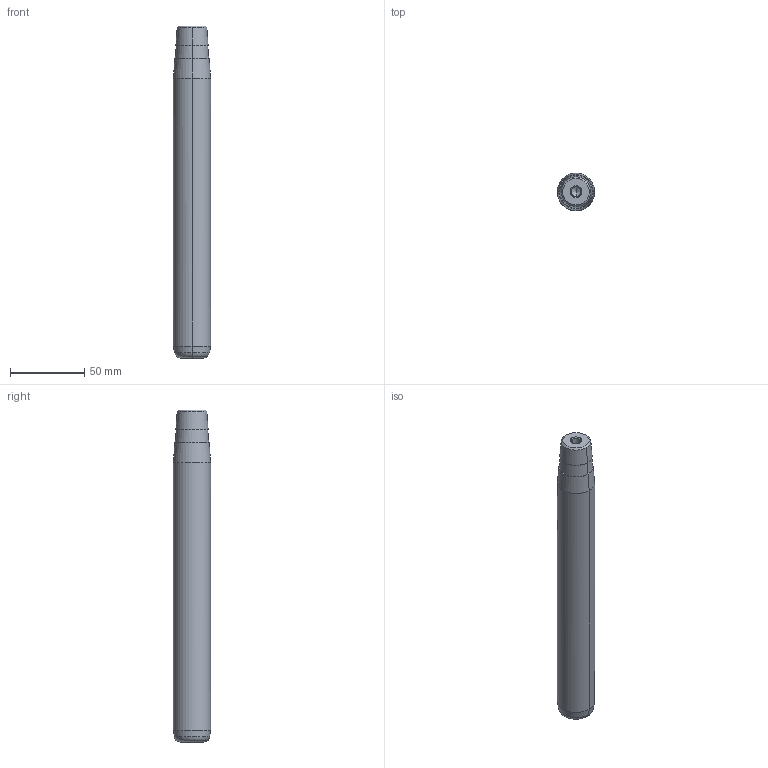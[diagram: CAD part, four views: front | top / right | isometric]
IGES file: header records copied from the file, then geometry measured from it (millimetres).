
Start section: START RECORD GO HERE.
Global section: file name: 722-25x200x223.igs; native system: DASSAULT SYSTEMES CATIA V5 R20 - www.3ds.com; preprocessor: CATIA Version 5 Release 20 ; author: Utente; organization: NB04-ASUS; date: 20210109.090338; units: millimetre
Bounding box: 25 x 25 x 223 mm (x, y, z)
Surface area: 18900.9 mm2 (no closed solid volume)
Topology: 0 solids, 0 shells, 32 faces, 192 edges, 188 vertices
Faces by surface type: revolution 30, plane 2
